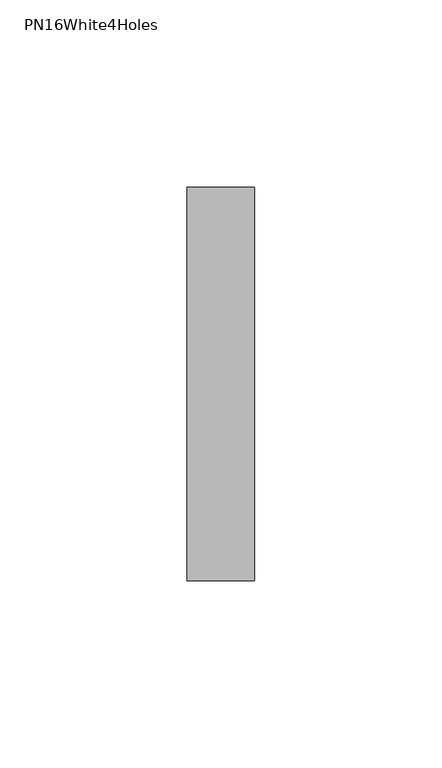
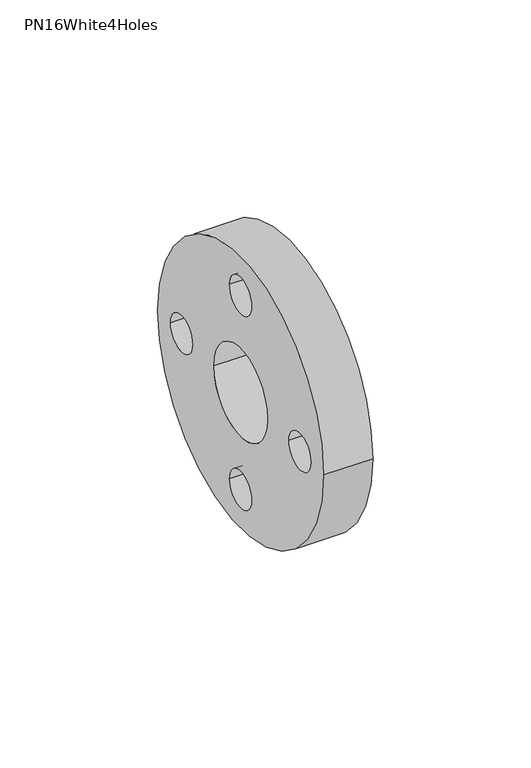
"""IFC4 building model written with IfcOpenShell, lengths in millimetres: pipe fitting geometry, PipeAccessory_GirpiHTA_CPVC_BackingRingsPN16White4HolesFlangeAndGasket : PN16White4Holes."""

import ifcopenshell
import ifcopenshell.guid

model = None  # the IFC model being written
_history = None  # IfcOwnerHistory: only IFC2X3 demands one
_inside = {}  # id of a spatial element -> (the spatial element, [elements in it])
_under = {}  # id of a project, library or spatial element -> (it, [spatial elements below it])
_declared = {}  # id of a project -> (the project, [libraries it declares])
_typed = {}  # id of a type object -> (the type object, [elements of that type])
_made_of = {}  # id of a material, layer set ... -> (it, [elements and type objects made of it])


def new_model(schema):
    """Start an empty IFC model of exactly this schema.

    Asked for "IFC4X3", IfcOpenShell would pick the latest addendum, in which some entities
    have other attributes; the version numbers below select the first issue.
    IFC2X3 requires an IfcOwnerHistory on every rooted entity: one is made here for all.
    """
    global model, _history
    if schema == "IFC4X3":
        model = ifcopenshell.file(schema_version=(4, 3, 0, 0))
    else:
        model = ifcopenshell.file(schema=schema)
    _inside.clear()
    _under.clear()
    _declared.clear()
    _typed.clear()
    _made_of.clear()
    _history = None
    if model.schema == "IFC2X3":
        org = make("IfcOrganization", Name="unknown")
        user = make(
            "IfcPersonAndOrganization",
            ThePerson=make("IfcPerson", FamilyName="unknown"),
            TheOrganization=org,
        )
        app = make(
            "IfcApplication",
            ApplicationDeveloper=org,
            Version="unknown",
            ApplicationFullName="unknown",
            ApplicationIdentifier="unknown",
        )
        _history = make(
            "IfcOwnerHistory",
            OwningUser=user,
            OwningApplication=app,
            ChangeAction="ADDED",
            CreationDate=0,
        )
    return model


def make(cls, **values):
    """One entity of the class cls with the attributes given. An attribute that is None is left unset."""
    return model.create_entity(
        cls, **{name: value for name, value in values.items() if value is not None}
    )


def rooted(cls, **values):
    """An entity with a GlobalId (a new one), such as an element, a storey or a relation."""
    return make(cls, GlobalId=ifcopenshell.guid.new(), OwnerHistory=_history, **values)


def si_unit(unit_type, name, prefix=None):
    """IfcSIUnit, for example si_unit("LENGTHUNIT", "METRE", prefix="MILLI")."""
    return make("IfcSIUnit", UnitType=unit_type, Prefix=prefix, Name=name)


def assignment(units):
    """IfcUnitAssignment: the units of a project."""
    return None if units is None else make("IfcUnitAssignment", Units=units)


def point(xyz):
    """IfcCartesianPoint."""
    return None if xyz is None else make("IfcCartesianPoint", Coordinates=xyz)


def direction(xyz):
    """IfcDirection."""
    return None if xyz is None else make("IfcDirection", DirectionRatios=xyz)


def frame(location, z_axis=None, x_axis=None):
    """IfcAxis2Placement3D, a coordinate frame: its origin and axes. An axis left out is left unset."""
    return make(
        "IfcAxis2Placement3D",
        Location=point(location),
        Axis=direction(z_axis),
        RefDirection=direction(x_axis),
    )


def frame_2d(location, x_axis=None):
    """IfcAxis2Placement2D, a coordinate frame in the plane: its origin and x axis."""
    return make(
        "IfcAxis2Placement2D", Location=point(location), RefDirection=direction(x_axis)
    )


def origin():
    """The frame at (0, 0, 0) with its axes left unset."""
    return frame((0.0, 0.0, 0.0))


def origin_2d():
    """The frame at (0, 0) in the plane with its x axis left unset."""
    return frame_2d((0.0, 0.0))


def place(relative_to, where):
    """IfcLocalPlacement: puts the frame where relative to a parent placement (None: the world)."""
    return make(
        "IfcLocalPlacement", PlacementRelTo=relative_to, RelativePlacement=where
    )


def context(
    kind, dimensions, precision=None, world=None, true_north=None, identifier=None
):
    """IfcGeometricRepresentationContext, for example the 3D "Model" context."""
    return make(
        "IfcGeometricRepresentationContext",
        ContextIdentifier=identifier,
        ContextType=kind,
        CoordinateSpaceDimension=dimensions,
        Precision=precision,
        WorldCoordinateSystem=world,
        TrueNorth=true_north,
    )


def project(units=None, contexts=None):
    """IfcProject with its units and contexts."""
    return rooted(
        "IfcProject",
        Name="project",
        RepresentationContexts=contexts,
        UnitsInContext=assignment(units),
    )


def spatial(cls, under=None, at=None, **own):
    """A site, building, storey or space (cls), placed at a placement, below another one or the project."""
    s = rooted(cls, ObjectPlacement=at, **own)
    if under is not None:
        _under.setdefault(under.id(), (under, []))[1].append(s)
    return s


def circle_curve(where, radius):
    """IfcCircle in the frame where."""
    return make("IfcCircle", Position=where, Radius=radius)


def trimmed(basis, trim1, trim2, sense, master):
    """IfcTrimmedCurve: the piece of a basis curve between two trims."""
    return make(
        "IfcTrimmedCurve",
        BasisCurve=basis,
        Trim1=trim1,
        Trim2=trim2,
        SenseAgreement=sense,
        MasterRepresentation=master,
    )


def segment(curve, same_sense, transition):
    """IfcCompositeCurveSegment."""
    return make(
        "IfcCompositeCurveSegment",
        Transition=transition,
        SameSense=same_sense,
        ParentCurve=curve,
    )


def composite_curve(segments, self_intersect=None):
    """IfcCompositeCurve: segments joined end to end."""
    return make("IfcCompositeCurve", Segments=segments, SelfIntersect=self_intersect)


def outline(outer, holes=None, kind="AREA"):
    """IfcArbitraryClosedProfileDef: a profile drawn as a closed curve; with holes, ...WithVoids."""
    if holes is None:
        return make("IfcArbitraryClosedProfileDef", ProfileType=kind, OuterCurve=outer)
    return make(
        "IfcArbitraryProfileDefWithVoids",
        ProfileType=kind,
        OuterCurve=outer,
        InnerCurves=holes,
    )


def extrude(swept, where, along, depth):
    """IfcExtrudedAreaSolid: the profile swept, set in the frame where, extruded along a direction by depth."""
    return make(
        "IfcExtrudedAreaSolid",
        SweptArea=swept,
        Position=where,
        ExtrudedDirection=direction(along),
        Depth=depth,
    )


def shape(context_of_items, identifier, shape_type, items):
    """IfcShapeRepresentation: the items that make up one representation, for example the "Body"."""
    return make(
        "IfcShapeRepresentation",
        ContextOfItems=context_of_items,
        RepresentationIdentifier=identifier,
        RepresentationType=shape_type,
        Items=items,
    )


def source(mapping_origin, context_of_items, identifier, shape_type, items):
    """IfcRepresentationMap: a shape defined once, which mapped items show again and again."""
    return make(
        "IfcRepresentationMap",
        MappingOrigin=mapping_origin,
        MappedRepresentation=shape(context_of_items, identifier, shape_type, items),
    )


def transform(
    local_origin,
    x_axis=None,
    y_axis=None,
    z_axis=None,
    scale=None,
    scale2=None,
    scale3=None,
    uniform=True,
):
    """IfcCartesianTransformationOperator3D, or its non-uniform kind. x_axis, y_axis, z_axis: its Axis1, 2, 3."""
    if uniform:
        return make(
            "IfcCartesianTransformationOperator3D",
            Axis1=direction(x_axis),
            Axis2=direction(y_axis),
            LocalOrigin=point(local_origin),
            Scale=scale,
            Axis3=direction(z_axis),
        )
    return make(
        "IfcCartesianTransformationOperator3DnonUniform",
        Axis1=direction(x_axis),
        Axis2=direction(y_axis),
        LocalOrigin=point(local_origin),
        Scale=scale,
        Axis3=direction(z_axis),
        Scale2=scale2,
        Scale3=scale3,
    )


def mapped(mapping_source, mapping_target):
    """IfcMappedItem: shows the shape of a source again, moved by a transform."""
    return make(
        "IfcMappedItem", MappingSource=mapping_source, MappingTarget=mapping_target
    )


def made_of(thing, what):
    """Note that an element or type object is made of a material, layer set ...; save() writes the relation."""
    if what is not None:
        _made_of.setdefault(what.id(), (what, []))[1].append(thing)
    return thing


def element(
    cls,
    number,
    at=None,
    inside=None,
    cuts=None,
    type_object=None,
    material=None,
    context=None,
    identifier="Body",
    shape_type=None,
    held_by="IfcProductDefinitionShape",
    body=None,
    shapes=None,
    **own,
):
    """One element of the class cls, such as IfcWall. Its Tag is "e" and its number.

    at: its placement. inside: the storey or other place that contains it. cuts: it is an
    opening in that element (IfcRelVoidsElement). A single representation is given by context,
    identifier, shape_type and body (its items); several are given by shapes. held_by: the class
    of the entity that holds the representations. save() writes the other relations.
    """
    e = rooted(cls, Tag="e%d" % number, ObjectPlacement=at, **own)
    if body is not None:
        shapes = [shape(context, identifier, shape_type, body)]
    if shapes is not None:
        e.Representation = make(held_by, Representations=shapes)
    if inside is not None:
        _inside.setdefault(inside.id(), (inside, []))[1].append(e)
    if cuts is not None:
        rooted(
            "IfcRelVoidsElement", RelatingBuildingElement=cuts, RelatedOpeningElement=e
        )
    if type_object is not None:
        _typed.setdefault(type_object.id(), (type_object, []))[1].append(e)
    return made_of(e, material)


def aggregate(whole, parts):
    """IfcRelAggregates: a whole, such as a stair, and the parts it consists of."""
    return rooted("IfcRelAggregates", RelatingObject=whole, RelatedObjects=parts)


def save(model, path):
    """Write the relations noted so far, then the file.

    IfcRelAggregates (storeys below a building ...), IfcRelContainedInSpatialStructure (elements
    in a storey), IfcRelDefinesByType, IfcRelAssociatesMaterial and IfcRelDeclares: one each for
    every whole, place, type object, material and project.
    """
    for whole, parts in _under.values():
        aggregate(whole, parts)
    for where, things in _inside.values():
        rooted(
            "IfcRelContainedInSpatialStructure",
            RelatedElements=things,
            RelatingStructure=where,
        )
    for kind, things in _typed.values():
        rooted("IfcRelDefinesByType", RelatedObjects=things, RelatingType=kind)
    for what, things in _made_of.values():
        rooted("IfcRelAssociatesMaterial", RelatedObjects=things, RelatingMaterial=what)
    for by, libraries in _declared.values():
        rooted("IfcRelDeclares", RelatingContext=by, RelatedDefinitions=libraries)
    model.write(path)


def pn16white4holes_fb9759ab(model_context):
    return source(origin(), model_context, "Body", "SweptSolid", [
        extrude(outline(composite_curve([segment(trimmed(circle_curve(origin_2d(), 52.5), [point((-52.5, 0.0))], [point((52.5, 0.0))], False, "CARTESIAN"), True, "CONTINUOUS"), segment(trimmed(circle_curve(origin_2d(), 52.5), [point((52.5, 0.0))], [point((-52.5, 0.0))], False, "CARTESIAN"), True, "CONTINUOUS")], self_intersect=False), holes=[composite_curve([segment(trimmed(circle_curve(origin_2d(), 17.0), [point((-17.0, 0.0))], [point((17.0, 0.0))], True, "CARTESIAN"), True, "CONTINUOUS"), segment(trimmed(circle_curve(origin_2d(), 17.0), [point((17.0, 0.0))], [point((-17.0, 0.0))], True, "CARTESIAN"), True, "CONTINUOUS")], self_intersect=False), composite_curve([segment(trimmed(circle_curve(frame_2d((0.0, 37.5)), 7.0), [point((-7.0, 37.5))], [point((7.0, 37.5))], True, "CARTESIAN"), True, "CONTINUOUS"), segment(trimmed(circle_curve(frame_2d((0.0, 37.5)), 7.0), [point((7.0, 37.5))], [point((-7.0, 37.5))], True, "CARTESIAN"), True, "CONTINUOUS")], self_intersect=False), composite_curve([segment(trimmed(circle_curve(frame_2d((37.5, 0.0)), 7.0), [point((30.5, 0.0))], [point((44.5, 0.0))], True, "CARTESIAN"), True, "CONTINUOUS"), segment(trimmed(circle_curve(frame_2d((37.5, 0.0)), 7.0), [point((44.5, 0.0))], [point((30.5, 0.0))], True, "CARTESIAN"), True, "CONTINUOUS")], self_intersect=False), composite_curve([segment(trimmed(circle_curve(frame_2d((0.0, -37.5)), 7.0), [point((-7.0, -37.5))], [point((7.0, -37.5))], True, "CARTESIAN"), True, "CONTINUOUS"), segment(trimmed(circle_curve(frame_2d((0.0, -37.5)), 7.0), [point((7.0, -37.5))], [point((-7.0, -37.5))], True, "CARTESIAN"), True, "CONTINUOUS")], self_intersect=False), composite_curve([segment(trimmed(circle_curve(frame_2d((-37.5, 0.0)), 7.0), [point((-44.5, 0.0))], [point((-30.5, 0.0))], True, "CARTESIAN"), True, "CONTINUOUS"), segment(trimmed(circle_curve(frame_2d((-37.5, 0.0)), 7.0), [point((-30.5, 0.0))], [point((-44.5, 0.0))], True, "CARTESIAN"), True, "CONTINUOUS")], self_intersect=False)]), frame((-9.0, 0.0, 0.0), z_axis=(1.0, 0.0, 0.0), x_axis=(0.0, 1.0, 0.0)), (0.0, 0.0, 1.0), 18.0),
    ])


if __name__ == "__main__":
    model = new_model("IFC4")
    model_context = context("Model", 3, world=origin())
    ifc_project = project(units=[si_unit("LENGTHUNIT", "METRE", prefix="MILLI")], contexts=[model_context])
    site = spatial("IfcSite", under=ifc_project)
    building = spatial("IfcBuilding", under=site)
    placement = place(None, origin())
    pn16white4holes_shape = pn16white4holes_fb9759ab(model_context)
    element("IfcPipeFitting", 1, ObjectType="PipeAccessory_GirpiHTA_CPVC_BackingRingsPN16White4HolesFlangeAndGasket : PN16White4Holes", at=placement, inside=building, context=model_context, shape_type="MappedRepresentation", body=[
        mapped(pn16white4holes_shape, transform((0.0, 0.0, 0.0), x_axis=(1.0, 0.0, 0.0), y_axis=(0.0, 1.0, 0.0), z_axis=(0.0, 0.0, 1.0))),
    ])
    save(model, "model.ifc")
